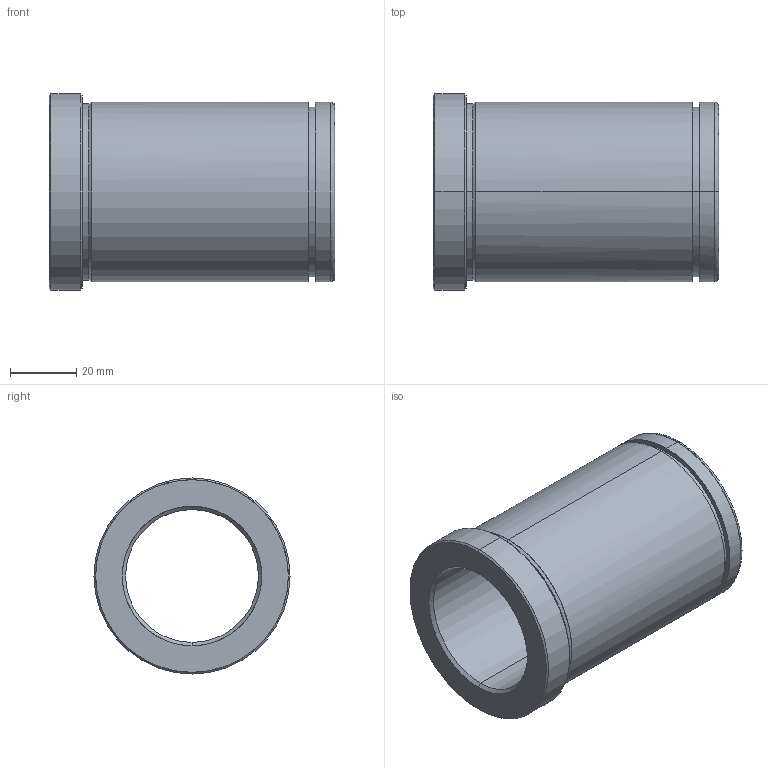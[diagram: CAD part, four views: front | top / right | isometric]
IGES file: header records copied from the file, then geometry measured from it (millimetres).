
Start section: START RECORD GO HERE.
Global section: file name: 553-40X86.igs; native system: DASSAULT SYSTEMES CATIA V5 R20 - www.3ds.com; preprocessor: CATIA Version 5 Release 20 ; author: Utente; organization: NB04-ASUS; date: 20210603.202811; units: millimetre
Bounding box: 86 x 59 x 59 mm (x, y, z)
Surface area: 28680.2 mm2 (no closed solid volume)
Topology: 0 solids, 0 shells, 29 faces, 184 edges, 184 vertices
Faces by surface type: revolution 24, plane 5
